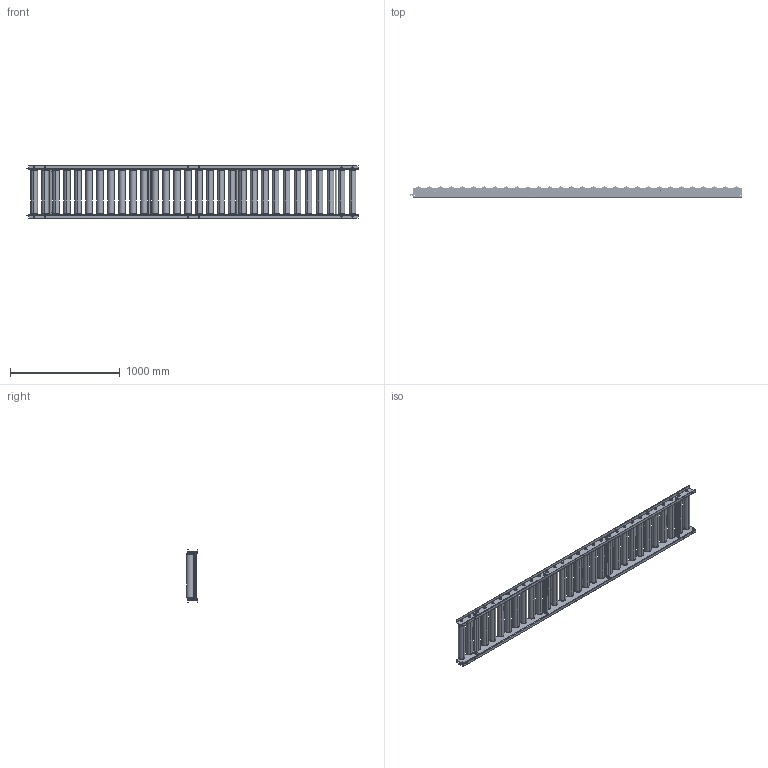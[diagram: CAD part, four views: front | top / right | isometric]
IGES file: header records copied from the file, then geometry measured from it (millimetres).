
Start section: SolidWorks IGES file using analytic representation for surfaces
Global section: file name: C:\Users\0656\Desktop\変換ツール\iges変換\R-6038SB.igs; native system: SolidWorks 2023; preprocessor: SolidWorks 2023; author: 0656; date: 240226.152516; units: millimetre
Bounding box: 3025 x 100.23 x 475 mm (x, y, z)
Surface area: 6120869.8 mm2 (no closed solid volume)
Topology: 0 solids, 0 shells, 1384 faces, 27992 edges, 27992 vertices
Faces by surface type: revolution 722, bspline 662
